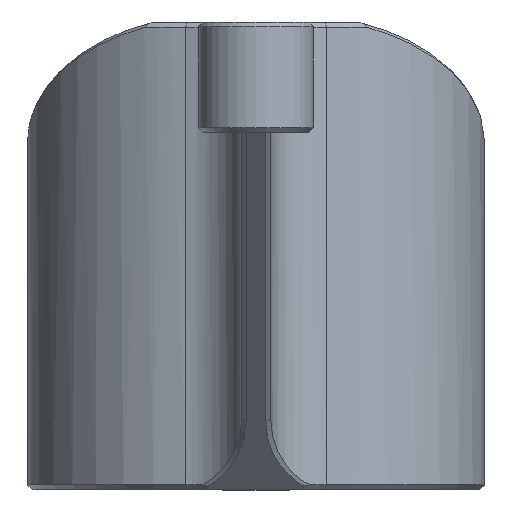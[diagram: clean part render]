
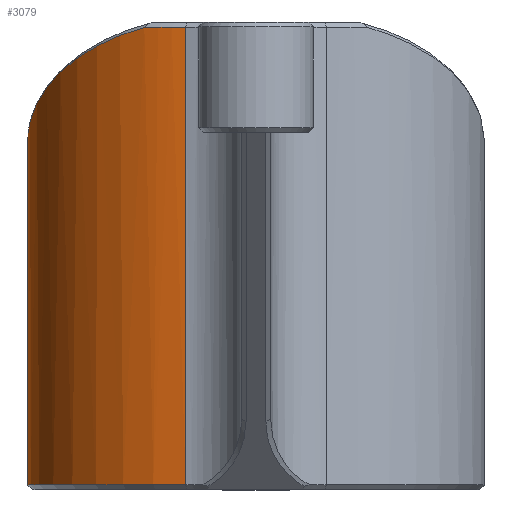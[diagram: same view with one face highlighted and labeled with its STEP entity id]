
A CAD part, top view. The second image highlights one B-rep face of the part: STEP entity #3079.
In plain terms, the highlighted cylindrical face has radius 42.457 mm (diameter 84.915 mm), a partial arc.
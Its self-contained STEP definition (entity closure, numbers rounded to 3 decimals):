
#917=CARTESIAN_POINT('',(-7.243,92.,7.243));
#918=DIRECTION('',(0.,1.,0.));
#919=DIRECTION('',(-0.402,0.,0.916));
#920=AXIS2_PLACEMENT_3D('',#917,#918,#919);
#930=CARTESIAN_POINT('',(-24.316,92.,46.116));
#1175=CARTESIAN_POINT('',(-7.243,-7.6,7.243));
#1176=DIRECTION('',(0.,-1.,0.));
#1177=DIRECTION('',(-0.19,0.,0.982));
#1178=AXIS2_PLACEMENT_3D('',#1175,#1176,#1177);
#1400=DIRECTION('',(0.,1.,0.));
#1401=VECTOR('',#1400,99.6);
#1402=CARTESIAN_POINT('',(-15.321,-7.6,48.924));
#1403=LINE('',#1402,#1401);
#1407=DIRECTION('',(0.,-1.,0.));
#1408=VECTOR('',#1407,75.148);
#1409=CARTESIAN_POINT('',(-49.7,67.548,7.243));
#1410=LINE('',#1409,#1408);
#1414=CARTESIAN_POINT('',(-24.316,92.,46.116));
#1415=CARTESIAN_POINT('',(-25.163,91.766,45.744));
#1416=CARTESIAN_POINT('',(-26.993,91.215,44.868));
#1417=CARTESIAN_POINT('',(-29.716,90.238,43.315));
#1418=CARTESIAN_POINT('',(-32.457,89.068,41.455));
#1419=CARTESIAN_POINT('',(-35.046,87.768,39.387));
#1420=CARTESIAN_POINT('',(-37.465,86.344,37.124));
#1421=CARTESIAN_POINT('',(-39.701,84.806,34.679));
#1422=CARTESIAN_POINT('',(-41.739,83.163,32.067));
#1423=CARTESIAN_POINT('',(-43.568,81.426,29.305));
#1424=CARTESIAN_POINT('',(-45.176,79.604,26.408));
#1425=CARTESIAN_POINT('',(-46.554,77.709,23.395));
#1426=CARTESIAN_POINT('',(-47.693,75.752,20.284));
#1427=CARTESIAN_POINT('',(-48.586,73.745,17.094));
#1428=CARTESIAN_POINT('',(-49.227,71.7,13.844));
#1429=CARTESIAN_POINT('',(-49.614,69.631,10.553));
#1430=CARTESIAN_POINT('',(-49.7,68.242,8.346));
#1431=CARTESIAN_POINT('',(-49.7,67.548,7.243));
#1638=CARTESIAN_POINT('',(-49.7,-7.6,7.243));
#1639=VERTEX_POINT('',#1638);
#1662=CARTESIAN_POINT('',(-49.7,67.548,7.243));
#1664=VERTEX_POINT('',#1662);
#1666=VERTEX_POINT('',#930);
#1671=CARTESIAN_POINT('',(-15.321,92.,48.924));
#1673=VERTEX_POINT('',#1671);
#1704=CARTESIAN_POINT('',(-15.321,-7.6,48.924));
#1705=VERTEX_POINT('',#1704);
#3066=CARTESIAN_POINT('',(-7.243,-8.6,7.243));
#3067=DIRECTION('',(0.,1.,0.));
#3068=DIRECTION('',(0.,0.,1.));
#3069=AXIS2_PLACEMENT_3D('',#3066,#3067,#3068);
#3070=CYLINDRICAL_SURFACE('',#3069,42.457);
#3072=ORIENTED_EDGE('',*,*,#3071,.F.);
#3073=ORIENTED_EDGE('',*,*,#2830,.T.);
#3074=ORIENTED_EDGE('',*,*,#3058,.F.);
#3075=ORIENTED_EDGE('',*,*,#2530,.F.);
#3076=ORIENTED_EDGE('',*,*,#2545,.T.);
#3077=EDGE_LOOP('',(#3072,#3073,#3074,#3075,#3076));
#3078=FACE_OUTER_BOUND('',#3077,.F.);
#921=CIRCLE('',#920,42.457);
#1179=CIRCLE('',#1178,42.457);
#1432=B_SPLINE_CURVE_WITH_KNOTS('',3,(#1414,#1415,#1416,#1417,#1418,#1419,#1420,
#1421,#1422,#1423,#1424,#1425,#1426,#1427,#1428,#1429,#1430,#1431),
.UNSPECIFIED.,.F.,.F.,(4,1,1,1,1,1,1,1,1,1,1,1,1,1,1,4),(0.,0.056,
0.124,0.191,0.259,0.326,
0.393,0.461,0.528,0.596,
0.663,0.73,0.798,0.865,
0.933,1.),.UNSPECIFIED.);
#2530=EDGE_CURVE('',#1666,#1664,#1432,.T.);
#2545=EDGE_CURVE('',#1666,#1673,#921,.T.);
#2830=EDGE_CURVE('',#1705,#1639,#1179,.T.);
#3058=EDGE_CURVE('',#1664,#1639,#1410,.T.);
#3071=EDGE_CURVE('',#1705,#1673,#1403,.T.);
#3079=ADVANCED_FACE('',(#3078),#3070,.T.);
